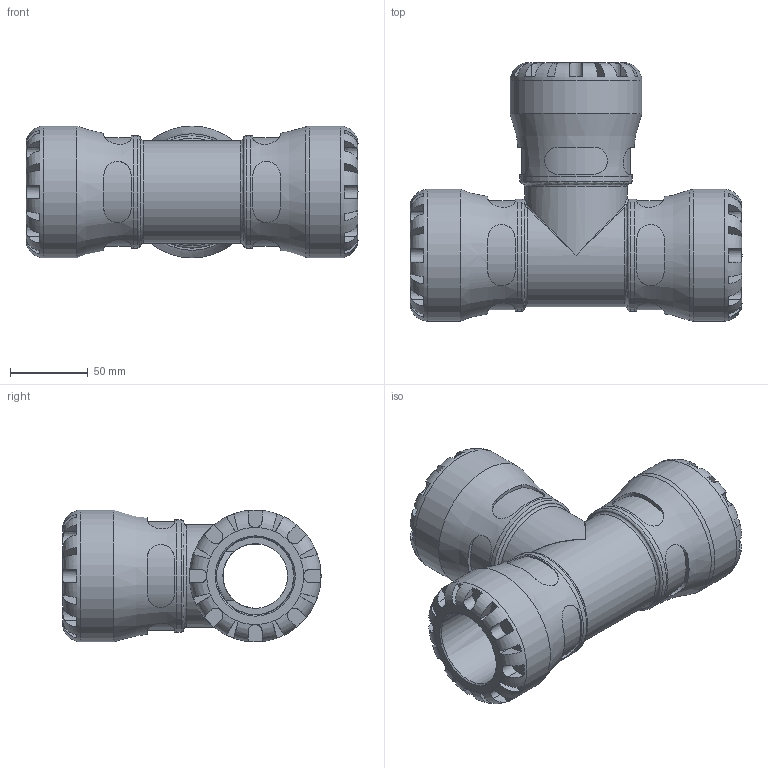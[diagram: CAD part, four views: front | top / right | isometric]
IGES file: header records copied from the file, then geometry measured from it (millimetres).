
Global section: file name: 100400050_190400050.ipt; native system: Autodesk Inventor 2015; preprocessor: unknown; author: KIM; date: 20180211.125745; units: millimetre
Bounding box: 214 x 166.5 x 85 mm (x, y, z)
Volume: 798388.5 mm3; surface area: 137604 mm2
Topology: 1 solids, 1 shells, 298 faces, 783 edges, 493 vertices
Faces by surface type: plane 174, revolution 68, cylinder 46, bspline 10
Full cylindrical faces by diameter (mm): 66.3 x1, 72.25 x3, 85 x3
